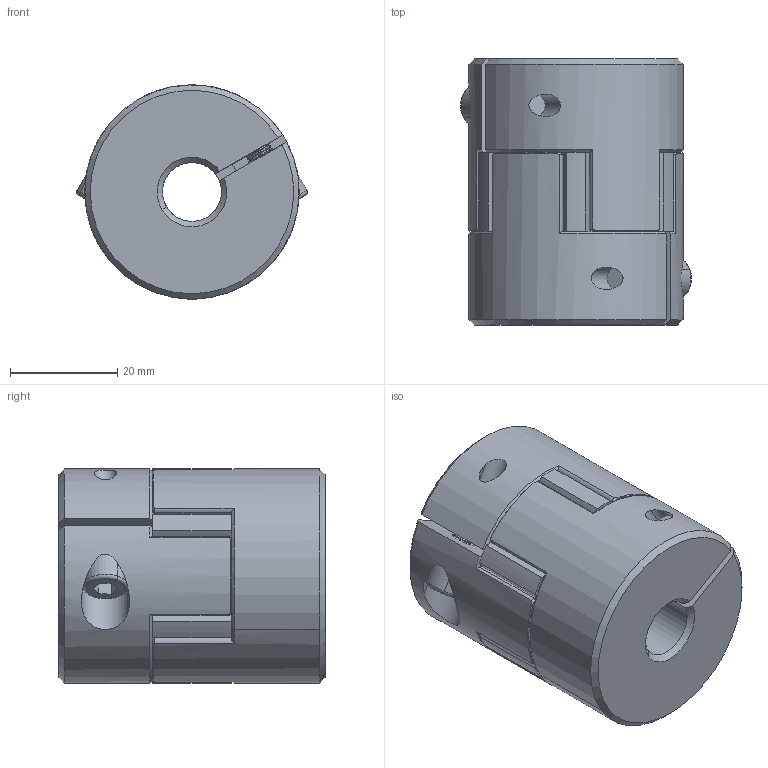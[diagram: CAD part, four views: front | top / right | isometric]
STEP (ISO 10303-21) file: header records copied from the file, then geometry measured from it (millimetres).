
FILE_DESCRIPTION (( 'STEP AP203' ), '1' );
FILE_NAME ('LF-B-D40L50-11-11.STEP', '2021-10-25T02:41:04', ( '' ), ( '' ), 'SwSTEP 2.0', 'SolidWorks 2018', '' );
FILE_SCHEMA (( 'CONFIG_CONTROL_DESIGN' ));
Length unit declared in the file: millimetre
Products named in the file (1): LF-B-D40L50-11-11
Bounding box: 43.11 x 49.7 x 40 mm (x, y, z)
Volume: 53536.5 mm3; surface area: 14665.3 mm2
Topology: 1 solids, 7 shells, 471 faces, 1117 edges, 662 vertices
Faces by surface type: cone 170, cylinder 169, plane 128, torus 4
Entity records: 13972 total; most frequent: CARTESIAN_POINT 2895, DIRECTION 2509, ORIENTED_EDGE 2226, EDGE_CURVE 1113, AXIS2_PLACEMENT_3D 1040, VERTEX_POINT 662, CIRCLE 568, EDGE_LOOP 487
